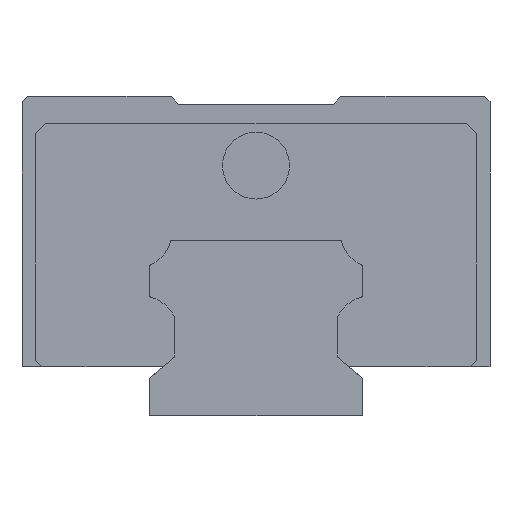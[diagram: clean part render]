
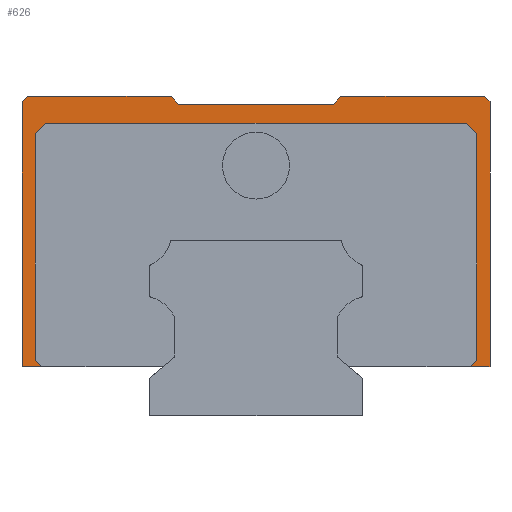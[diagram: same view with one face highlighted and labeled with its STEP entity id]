
A CAD part, left-side view. The second image highlights one B-rep face of the part: STEP entity #626.
In plain terms, the highlighted planar face has unit normal (-1, 0, 0).
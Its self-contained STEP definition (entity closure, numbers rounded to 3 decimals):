
#138 = DIRECTION ( 'NONE',  ( 0., 0.643, -0.766 ) ) ;
#172 = LINE ( 'NONE', #13394, #1797 ) ;
#228 = ORIENTED_EDGE ( 'NONE', *, *, #13511, .F. ) ;
#570 = DIRECTION ( 'NONE',  ( 0., 0., 1. ) ) ;
#626 = ADVANCED_FACE ( 'NONE', ( #10673 ), #11717, .F. ) ;
#650 = ORIENTED_EDGE ( 'NONE', *, *, #8289, .F. ) ;
#734 = VERTEX_POINT ( 'NONE', #15982 ) ;
#779 = CARTESIAN_POINT ( 'NONE',  ( -27., -21.5, 30. ) ) ;
#799 = CARTESIAN_POINT ( 'NONE',  ( -27., 19.75, 27.5 ) ) ;
#899 = CARTESIAN_POINT ( 'NONE',  ( -27., 9., 4.6 ) ) ;
#933 = EDGE_CURVE ( 'NONE', #11738, #16420, #16746, .T. ) ;
#972 = VECTOR ( 'NONE', #138, 1000. ) ;
#1001 = CARTESIAN_POINT ( 'NONE',  ( -27., -20.75, 30. ) ) ;
#1053 = CARTESIAN_POINT ( 'NONE',  ( -27., -22., 29.5 ) ) ;
#1296 = ORIENTED_EDGE ( 'NONE', *, *, #10921, .F. ) ;
#1308 = CARTESIAN_POINT ( 'NONE',  ( -27., -22., 30. ) ) ;
#1372 = DIRECTION ( 'NONE',  ( 0., -0.707, 0.707 ) ) ;
#1591 = ORIENTED_EDGE ( 'NONE', *, *, #12566, .T. ) ;
#1598 = VECTOR ( 'NONE', #3746, 1000. ) ;
#1603 = CARTESIAN_POINT ( 'NONE',  ( -27., 21.5, 30. ) ) ;
#1684 = CARTESIAN_POINT ( 'NONE',  ( -27., 22., 4.6 ) ) ;
#1777 = EDGE_LOOP ( 'NONE', ( #1296, #11072, #12105, #13449, #16159, #6599, #9175, #228, #650, #15719, #13294, #10584, #8478, #1591, #10435, #3550, #12416, #9552 ) ) ;
#1797 = VECTOR ( 'NONE', #1372, 1000. ) ;
#1952 = LINE ( 'NONE', #8156, #9471 ) ;
#1991 = LINE ( 'NONE', #15045, #9882 ) ;
#2224 = LINE ( 'NONE', #3591, #9179 ) ;
#2365 = LINE ( 'NONE', #10193, #14341 ) ;
#2678 = DIRECTION ( 'NONE',  ( 0., -1., 0. ) ) ;
#2690 = VERTEX_POINT ( 'NONE', #14501 ) ;
#2863 = VECTOR ( 'NONE', #3489, 1000. ) ;
#2895 = VECTOR ( 'NONE', #7299, 1000. ) ;
#2966 = VERTEX_POINT ( 'NONE', #12450 ) ;
#3067 = DIRECTION ( 'NONE',  ( 0., 0.707, -0.707 ) ) ;
#3235 = EDGE_CURVE ( 'NONE', #10792, #7450, #5571, .T. ) ;
#3489 = DIRECTION ( 'NONE',  ( 0., 0., 1. ) ) ;
#3507 = DIRECTION ( 'NONE',  ( 0., 0.643, 0.766 ) ) ;
#3550 = ORIENTED_EDGE ( 'NONE', *, *, #5881, .T. ) ;
#3591 = CARTESIAN_POINT ( 'NONE',  ( -27., 7.333, 29.25 ) ) ;
#3746 = DIRECTION ( 'NONE',  ( 0., -1., 0. ) ) ;
#3769 = DIRECTION ( 'NONE',  ( 0., 1., 0. ) ) ;
#3802 = DIRECTION ( 'NONE',  ( 1., 0., 0. ) ) ;
#3818 = VERTEX_POINT ( 'NONE', #5320 ) ;
#3879 = CARTESIAN_POINT ( 'NONE',  ( -27., -19.75, 27.5 ) ) ;
#3888 = VERTEX_POINT ( 'NONE', #1603 ) ;
#4369 = VECTOR ( 'NONE', #5637, 1000. ) ;
#4542 = VERTEX_POINT ( 'NONE', #799 ) ;
#4723 = EDGE_CURVE ( 'NONE', #4767, #16633, #14105, .T. ) ;
#4765 = VECTOR ( 'NONE', #2678, 1000. ) ;
#4767 = VERTEX_POINT ( 'NONE', #1053 ) ;
#4795 = CARTESIAN_POINT ( 'NONE',  ( -27., -22., 27.5 ) ) ;
#4906 = CARTESIAN_POINT ( 'NONE',  ( -27., 20.15, 4.6 ) ) ;
#4992 = CARTESIAN_POINT ( 'NONE',  ( -27., -19.625, 27.625 ) ) ;
#5292 = CARTESIAN_POINT ( 'NONE',  ( -27., 21.5, 30. ) ) ;
#5320 = CARTESIAN_POINT ( 'NONE',  ( -27., 20.75, 5.2 ) ) ;
#5410 = CARTESIAN_POINT ( 'NONE',  ( -27., -22., 4.6 ) ) ;
#5571 = LINE ( 'NONE', #16028, #11390 ) ;
#5637 = DIRECTION ( 'NONE',  ( 0., 0., -1. ) ) ;
#5881 = EDGE_CURVE ( 'NONE', #3888, #7450, #9247, .T. ) ;
#6192 = CARTESIAN_POINT ( 'NONE',  ( -27., -20.75, 26.5 ) ) ;
#6269 = EDGE_CURVE ( 'NONE', #14528, #10265, #172, .T. ) ;
#6284 = LINE ( 'NONE', #13821, #15236 ) ;
#6315 = CARTESIAN_POINT ( 'NONE',  ( -27., -7.963, 30. ) ) ;
#6586 = DIRECTION ( 'NONE',  ( 0., 0.707, -0.707 ) ) ;
#6599 = ORIENTED_EDGE ( 'NONE', *, *, #13696, .F. ) ;
#6693 = LINE ( 'NONE', #5410, #14389 ) ;
#7299 = DIRECTION ( 'NONE',  ( 0., 1., 0. ) ) ;
#7373 = LINE ( 'NONE', #1001, #2863 ) ;
#7450 = VERTEX_POINT ( 'NONE', #15948 ) ;
#7503 = VECTOR ( 'NONE', #16781, 1000. ) ;
#7765 = EDGE_CURVE ( 'NONE', #12015, #16633, #14051, .T. ) ;
#8009 = DIRECTION ( 'NONE',  ( 0., 1., 0. ) ) ;
#8103 = VERTEX_POINT ( 'NONE', #12746 ) ;
#8156 = CARTESIAN_POINT ( 'NONE',  ( -27., -2.375, 49.625 ) ) ;
#8289 = EDGE_CURVE ( 'NONE', #4767, #8103, #1991, .T. ) ;
#8343 = AXIS2_PLACEMENT_3D ( 'NONE', #1308, #3802, #8009 ) ;
#8478 = ORIENTED_EDGE ( 'NONE', *, *, #15823, .T. ) ;
#8600 = VECTOR ( 'NONE', #11798, 1000. ) ;
#8838 = LINE ( 'NONE', #4795, #2895 ) ;
#9175 = ORIENTED_EDGE ( 'NONE', *, *, #6269, .F. ) ;
#9179 = VECTOR ( 'NONE', #3507, 1000. ) ;
#9229 = CARTESIAN_POINT ( 'NONE',  ( -27., 22., 30. ) ) ;
#9247 = LINE ( 'NONE', #5292, #13573 ) ;
#9430 = VECTOR ( 'NONE', #15460, 1000. ) ;
#9471 = VECTOR ( 'NONE', #3067, 1000. ) ;
#9552 = ORIENTED_EDGE ( 'NONE', *, *, #10900, .F. ) ;
#9882 = VECTOR ( 'NONE', #10944, 1000. ) ;
#10057 = EDGE_CURVE ( 'NONE', #2690, #3818, #14400, .T. ) ;
#10193 = CARTESIAN_POINT ( 'NONE',  ( -27., 11.775, -3.775 ) ) ;
#10265 = VERTEX_POINT ( 'NONE', #16597 ) ;
#10435 = ORIENTED_EDGE ( 'NONE', *, *, #12092, .F. ) ;
#10448 = LINE ( 'NONE', #899, #7503 ) ;
#10461 = CARTESIAN_POINT ( 'NONE',  ( -27., -7.963, 30. ) ) ;
#10584 = ORIENTED_EDGE ( 'NONE', *, *, #14574, .T. ) ;
#10673 = FACE_OUTER_BOUND ( 'NONE', #1777, .T. ) ;
#10792 = VERTEX_POINT ( 'NONE', #1684 ) ;
#10900 = EDGE_CURVE ( 'NONE', #15488, #10792, #10448, .T. ) ;
#10921 = EDGE_CURVE ( 'NONE', #3818, #15488, #2365, .T. ) ;
#10944 = DIRECTION ( 'NONE',  ( 0., 0., -1. ) ) ;
#11072 = ORIENTED_EDGE ( 'NONE', *, *, #10057, .F. ) ;
#11390 = VECTOR ( 'NONE', #570, 1000. ) ;
#11717 = PLANE ( 'NONE',  #8343 ) ;
#11738 = VERTEX_POINT ( 'NONE', #6192 ) ;
#11798 = DIRECTION ( 'NONE',  ( 0., 0.707, 0.707 ) ) ;
#12015 = VERTEX_POINT ( 'NONE', #6315 ) ;
#12092 = EDGE_CURVE ( 'NONE', #3888, #14477, #15737, .T. ) ;
#12105 = ORIENTED_EDGE ( 'NONE', *, *, #14363, .F. ) ;
#12416 = ORIENTED_EDGE ( 'NONE', *, *, #3235, .F. ) ;
#12450 = CARTESIAN_POINT ( 'NONE',  ( -27., 7.333, 29.25 ) ) ;
#12526 = CARTESIAN_POINT ( 'NONE',  ( -27., -20.15, 4.6 ) ) ;
#12566 = EDGE_CURVE ( 'NONE', #2966, #14477, #2224, .T. ) ;
#12746 = CARTESIAN_POINT ( 'NONE',  ( -27., -22., 4.6 ) ) ;
#12858 = CARTESIAN_POINT ( 'NONE',  ( -27., 7.963, 30. ) ) ;
#13015 = DIRECTION ( 'NONE',  ( 0., -0.707, -0.707 ) ) ;
#13294 = ORIENTED_EDGE ( 'NONE', *, *, #7765, .F. ) ;
#13394 = CARTESIAN_POINT ( 'NONE',  ( -27., -33.775, 18.225 ) ) ;
#13449 = ORIENTED_EDGE ( 'NONE', *, *, #16161, .F. ) ;
#13511 = EDGE_CURVE ( 'NONE', #8103, #14528, #6693, .T. ) ;
#13573 = VECTOR ( 'NONE', #6586, 1000. ) ;
#13696 = EDGE_CURVE ( 'NONE', #10265, #11738, #7373, .T. ) ;
#13821 = CARTESIAN_POINT ( 'NONE',  ( -27., -7.333, 29.25 ) ) ;
#14051 = LINE ( 'NONE', #16794, #1598 ) ;
#14105 = LINE ( 'NONE', #14190, #8600 ) ;
#14190 = CARTESIAN_POINT ( 'NONE',  ( -27., -22., 29.5 ) ) ;
#14341 = VECTOR ( 'NONE', #13015, 1000. ) ;
#14363 = EDGE_CURVE ( 'NONE', #4542, #2690, #1952, .T. ) ;
#14389 = VECTOR ( 'NONE', #3769, 1000. ) ;
#14400 = LINE ( 'NONE', #16001, #4369 ) ;
#14477 = VERTEX_POINT ( 'NONE', #12858 ) ;
#14501 = CARTESIAN_POINT ( 'NONE',  ( -27., 20.75, 26.5 ) ) ;
#14528 = VERTEX_POINT ( 'NONE', #12526 ) ;
#14574 = EDGE_CURVE ( 'NONE', #12015, #734, #16972, .T. ) ;
#15045 = CARTESIAN_POINT ( 'NONE',  ( -27., -22., 30. ) ) ;
#15236 = VECTOR ( 'NONE', #15364, 1000. ) ;
#15364 = DIRECTION ( 'NONE',  ( 0., 1., 0. ) ) ;
#15460 = DIRECTION ( 'NONE',  ( 0., 0.707, 0.707 ) ) ;
#15488 = VERTEX_POINT ( 'NONE', #4906 ) ;
#15719 = ORIENTED_EDGE ( 'NONE', *, *, #4723, .T. ) ;
#15737 = LINE ( 'NONE', #9229, #4765 ) ;
#15823 = EDGE_CURVE ( 'NONE', #734, #2966, #6284, .T. ) ;
#15948 = CARTESIAN_POINT ( 'NONE',  ( -27., 22., 29.5 ) ) ;
#15982 = CARTESIAN_POINT ( 'NONE',  ( -27., -7.333, 29.25 ) ) ;
#16001 = CARTESIAN_POINT ( 'NONE',  ( -27., 20.75, 30. ) ) ;
#16028 = CARTESIAN_POINT ( 'NONE',  ( -27., 22., 4.6 ) ) ;
#16159 = ORIENTED_EDGE ( 'NONE', *, *, #933, .F. ) ;
#16161 = EDGE_CURVE ( 'NONE', #16420, #4542, #8838, .T. ) ;
#16420 = VERTEX_POINT ( 'NONE', #3879 ) ;
#16597 = CARTESIAN_POINT ( 'NONE',  ( -27., -20.75, 5.2 ) ) ;
#16633 = VERTEX_POINT ( 'NONE', #779 ) ;
#16746 = LINE ( 'NONE', #4992, #9430 ) ;
#16781 = DIRECTION ( 'NONE',  ( 0., 1., 0. ) ) ;
#16794 = CARTESIAN_POINT ( 'NONE',  ( -27., 22., 30. ) ) ;
#16972 = LINE ( 'NONE', #10461, #972 ) ;
